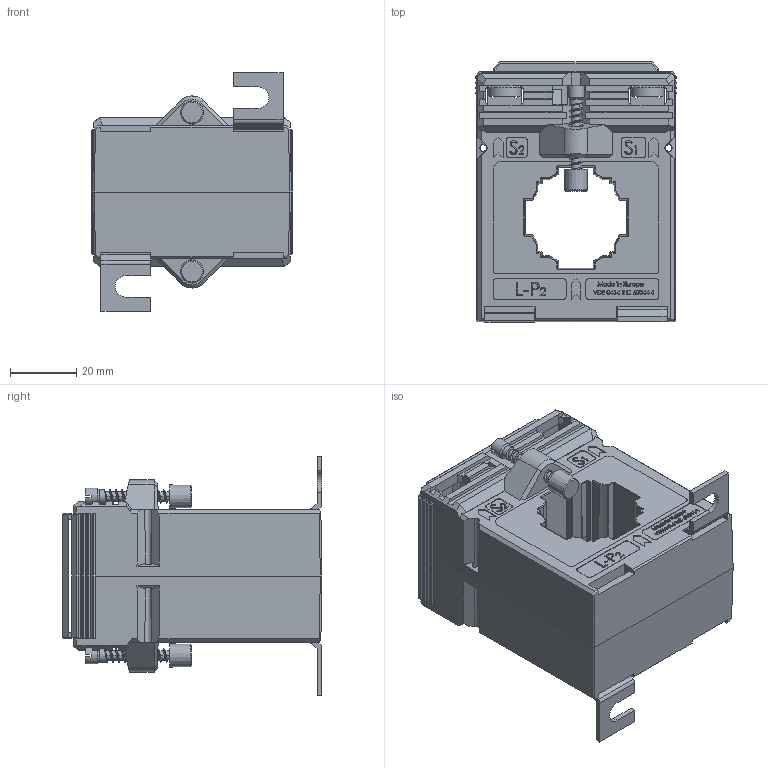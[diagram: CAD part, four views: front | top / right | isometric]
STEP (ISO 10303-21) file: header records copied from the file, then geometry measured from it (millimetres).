
FILE_DESCRIPTION(/* description */ (''),/* implementation_level */ '2;1');
FILE_NAME(/* name */ 'ASK31.4.stp',/* time_stamp */ '2024-03-04T10:45:11+01:00',/* author */ ('JDI'),/* organization */ (''),/* preprocessor_version */ 'ST-DEVELOPER v19.2',/* originating_system */ 'Autodesk Inventor 2023',/* authorisation */ '');
FILE_SCHEMA (('AUTOMOTIVE_DESIGN { 1 0 10303 214 3 1 1 }'));
Products named in the file (1): ASK31.4.ipt
Bounding box: 61 x 78.5 x 72 mm (x, y, z)
Volume: 146348.1 mm3; surface area: 40895.7 mm2
Topology: 2 solids, 2 shells, 2139 faces, 5617 edges, 3572 vertices
Faces by surface type: plane 1365, bspline 414, cylinder 232, cone 60, sphere 48, torus 20
Full cylindrical faces by diameter (mm): 2.95 x2, 3 x26, 3.8 x4, 4 x12, 4.1 x2, 5 x2, 10 x4
Entity records: 90155 total; most frequent: CARTESIAN_POINT 37695, ORIENTED_EDGE 11234, DIRECTION 9023, EDGE_CURVE 5617, LINE 3917, VECTOR 3917, VERTEX_POINT 3572, AXIS2_PLACEMENT_3D 2553
